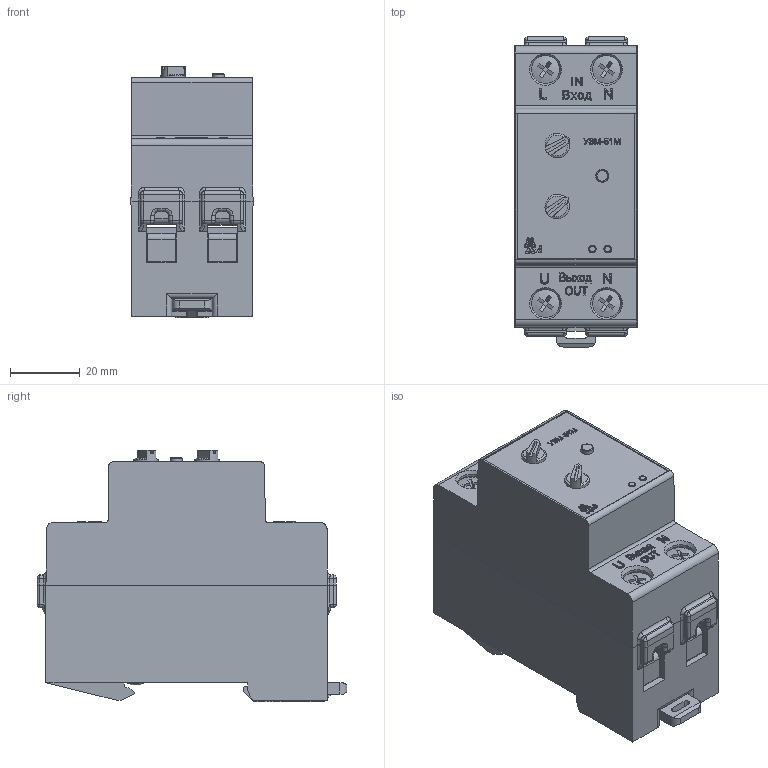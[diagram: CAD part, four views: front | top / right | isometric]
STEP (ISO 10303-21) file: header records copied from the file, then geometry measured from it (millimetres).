
FILE_DESCRIPTION(('STEP AP242'), '1');
FILE_NAME('ﾑ碚濱ﾓﾇﾌ-51ﾌ', '', ('UNSPECIFIED'), ('UNSPECIFIED'), 'C3D Converter', 'C3D Toolkit', '');
FILE_SCHEMA(('AP242_MANAGED_MODEL_BASED_3D_ENGINEERING_MIM_LF { 1 0 10303 442 1 1 4 }'));
Length unit declared in the file: millimetre
Products named in the file (14): ___UZM80__ASM_v01_SimpleModel; UZM-80_bottom_v01_Џｮ гｬｮｫзｭЁо; UZM-80_top_v01_Џｮ гｬｮｫзｭЁо; UZM-80_lock_v0_Џｮ гｬｮｫзｭЁо; 77500219_build20150420; UZM-80_Terminal_Cage_v0; Screw_Headtype_=[)_+_(configurable)_M6_L15_Head10x3.5; R-knob_2017_Hex2mm__Џｮ гｬｮｫзｭЁо
Assembly tree (17 placements, depth 3):
  ___UZM80__ASM_v01_SimpleModel
    UZM-80_bottom_v01_Џｮ гｬｮｫзｭЁо
    UZM-80_top_v01_Џｮ гｬｮｫзｭЁо
    UZM-80_lock_v0_Џｮ гｬｮｫзｭЁо
    (unnamed)  x4
      77500219_build20150420
      UZM-80_Terminal_Cage_v0
      Screw_Headtype_=[)_+_(configurable)_M6_L15_Head10x3.5
    R-knob_2017_Hex2mm__Џｮ гｬｮｫзｭЁо  x2
    (unnamed)
    (unnamed)
    (unnamed)
    (unnamed)
    (unnamed)
Bounding box: 35 x 88.85 x 72.1 mm (x, y, z)
Volume: 46829.3 mm3; surface area: 60689.3 mm2
Topology: 30 solids, 30 shells, 3669 faces, 10162 edges, 6565 vertices
Faces by surface type: plane 2788, cylinder 466, bspline 180, cone 109, extrusion 83, torus 31, sphere 12
Full cylindrical faces by diameter (mm): 2.1 x2, 2.2 x2, 3.5 x1, 3.7 x1, 4.5 x2, 5 x10, 8 x4, 10 x4
Entity records: 151226 total; most frequent: CARTESIAN_POINT 45291, ORIENTED_EDGE 17920, DIRECTION 14343, EDGE_CURVE 8960, VECTOR 7517, LINE 7434, VERTEX_POINT 5858, AXIS2_PLACEMENT_3D 3413
